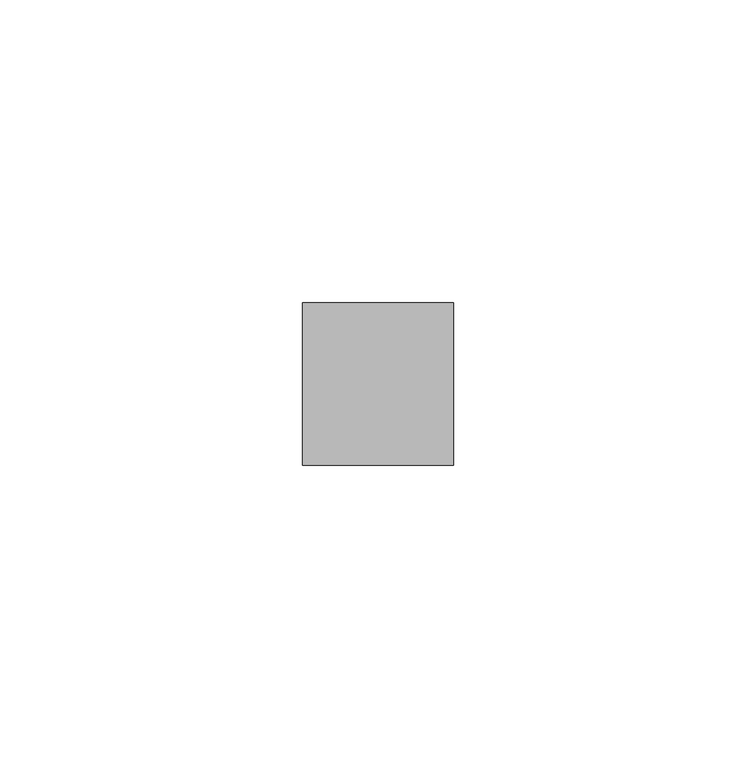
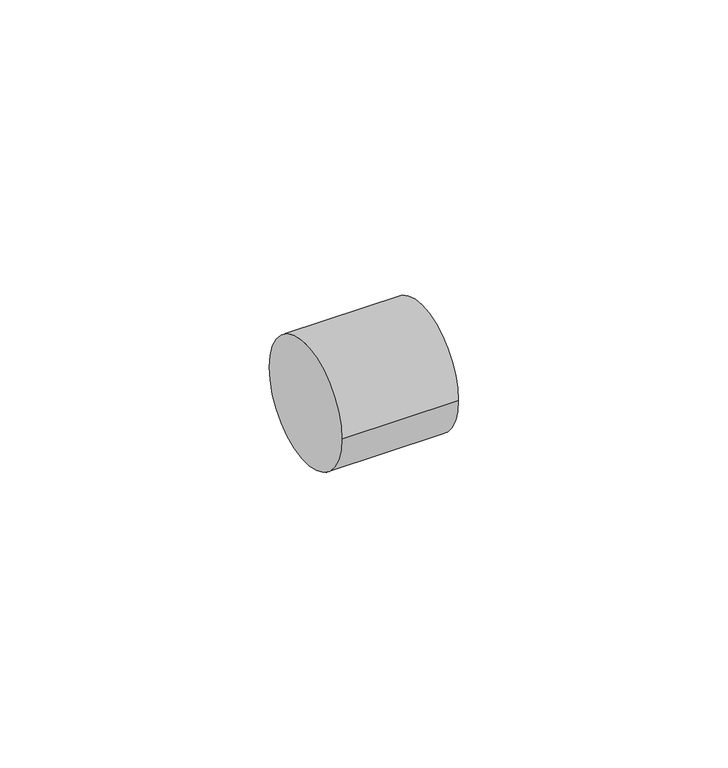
"""IFC4 building model written with IfcOpenShell, lengths in millimetres: pipe fitting geometry, ADSK_ДетальЧугуннаяРезьбовая_Пробка_ГОСТ8963-59 : Неоцинкованные."""

from ifc_helpers import new_model, si_unit, point, frame, origin, origin_2d, place, context, project, spatial, circle_curve, trimmed, segment, composite_curve, outline, extrude, source, transform, mapped, element, save


def pipe_fitting_1097da3f(model_context):
    return source(origin(), model_context, "Body", "SweptSolid", [
        extrude(outline(composite_curve([segment(trimmed(circle_curve(origin_2d(), 13.45), [point((-13.45, 0.0))], [point((13.45, 0.0))], False, "CARTESIAN"), True, "CONTINUOUS"), segment(trimmed(circle_curve(origin_2d(), 13.45), [point((13.45, 0.0))], [point((-13.45, 0.0))], False, "CARTESIAN"), True, "CONTINUOUS")], self_intersect=False)), frame((0.0, 0.0, 0.0), z_axis=(1.0, 0.0, 0.0), x_axis=(0.0, 1.0, 0.0)), (0.0, 0.0, 1.0), 25.0),
    ])


if __name__ == "__main__":
    model = new_model("IFC4")
    model_context = context("Model", 3, world=origin())
    ifc_project = project(units=[si_unit("LENGTHUNIT", "METRE", prefix="MILLI")], contexts=[model_context])
    site = spatial("IfcSite", under=ifc_project)
    building = spatial("IfcBuilding", under=site)
    placement = place(None, origin())
    pipe_fitting_shape = pipe_fitting_1097da3f(model_context)
    element("IfcPipeFitting", 1, ObjectType="ADSK_ДетальЧугуннаяРезьбовая_Пробка_ГОСТ8963-59 : Неоцинкованные", at=placement, inside=building, context=model_context, shape_type="MappedRepresentation", body=[
        mapped(pipe_fitting_shape, transform((0.0, 0.0, 0.0), x_axis=(1.0, 0.0, 0.0), y_axis=(0.0, 1.0, 0.0), z_axis=(0.0, 0.0, 1.0))),
    ])
    save(model, "model.ifc")
